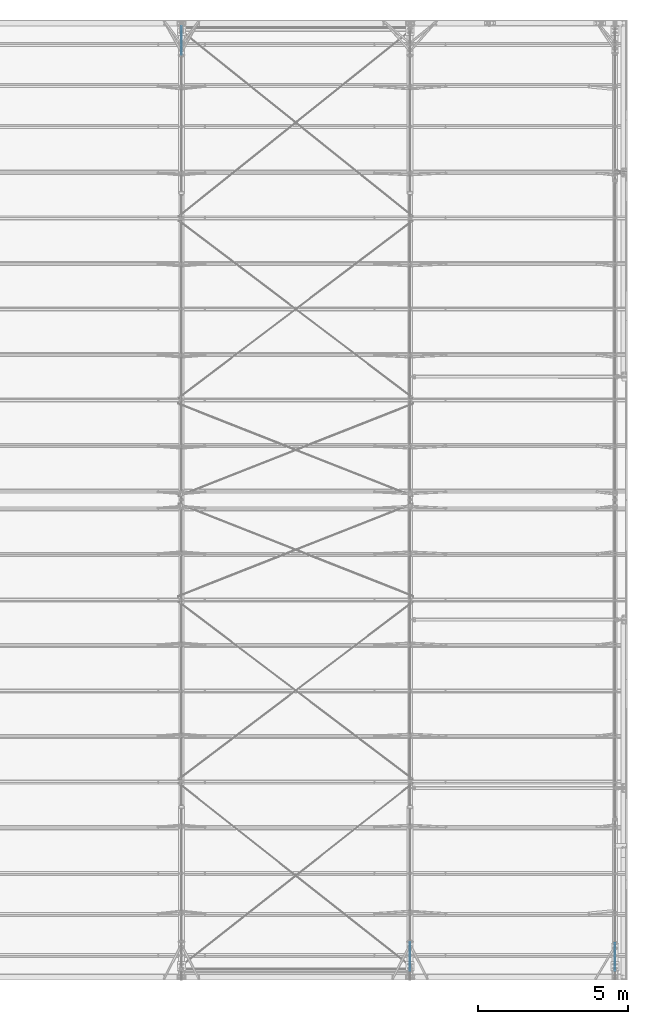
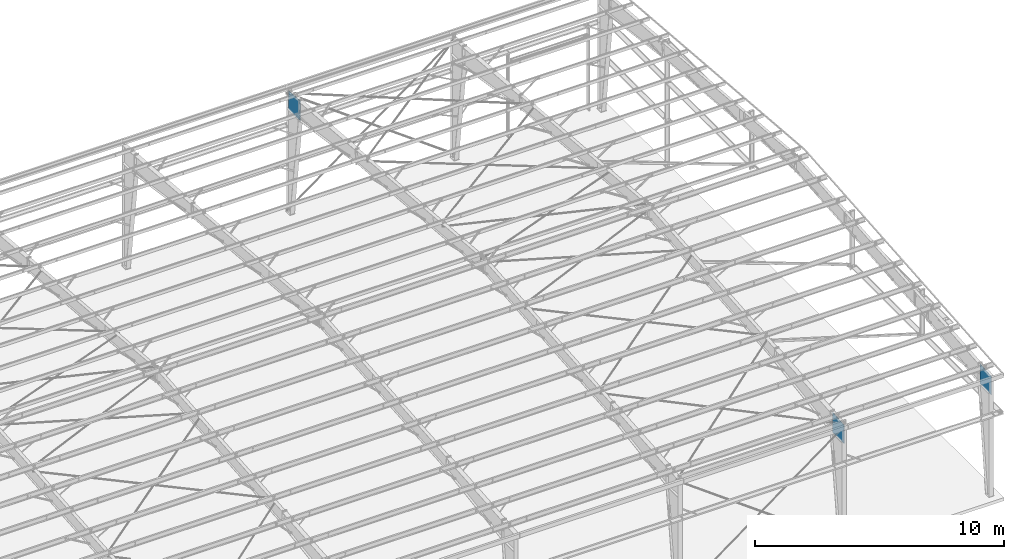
# One storey, part 3 of 185: 3 columns, 3 elements without a shape of their own.
"""IFC2X3 building model written with IfcOpenShell, lengths in millimetres."""

from ifc_helpers import new_model, si_unit, frame, origin_with_axes, origin_2d_with_axis, place, context, subcontext, project, spatial, rectangle, extrude, clip, halfspace, material, type_object, element, aggregate, save


model = new_model("IFC2X3")

# Units and contexts
model_context = context("Model", 3, precision=1e-05, world=origin_with_axes())
body_context = subcontext(model_context, "Body", "Model", "MODEL_VIEW")
ifc_project = project(units=[si_unit("LENGTHUNIT", "METRE", prefix="MILLI"), si_unit("AREAUNIT", "SQUARE_METRE"), si_unit("VOLUMEUNIT", "CUBIC_METRE"), si_unit("MASSUNIT", "GRAM", prefix="KILO"), si_unit("TIMEUNIT", "SECOND"), si_unit("PLANEANGLEUNIT", "RADIAN"), si_unit("SOLIDANGLEUNIT", "STERADIAN"), si_unit("THERMODYNAMICTEMPERATUREUNIT", "DEGREE_CELSIUS"), si_unit("LUMINOUSINTENSITYUNIT", "LUMEN")], contexts=[model_context])

# Site, building, storey
site_placement = place(None, origin_with_axes())
site = spatial("IfcSite", under=ifc_project, at=site_placement, Name="Undefined", CompositionType="ELEMENT")
building_placement = place(site_placement, origin_with_axes())
building = spatial("IfcBuilding", under=site, at=building_placement, Name="Undefined", CompositionType="ELEMENT")
storey_placement = place(building_placement, origin_with_axes())
storey = spatial("IfcBuildingStorey", under=building, at=storey_placement, Name="Undefined", CompositionType="ELEMENT", Elevation=0.0)

# Assembly, column
assembly_1_placement = place(storey_placement, origin_with_axes())
assembly_1 = element("IfcElementAssembly", 1, at=assembly_1_placement, inside=storey, Name="Steel Assembly", AssemblyPlace="NOTDEFINED", PredefinedType="RIGID_FRAME")
ifc_material = material(Name="STEEL/55")
column_type_1 = type_object("IfcColumnType", Name="PL1/4\"X35\"", PredefinedType="NOTDEFINED")
column_1_placement = place(assembly_1_placement, frame((44551.6, 755.650000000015, 4994.54898109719), z_axis=(0.0, 0.0, 1.0), x_axis=(0.0, -1.0, 0.0)))
column_1 = element("IfcColumn", 2, at=column_1_placement, type_object=column_type_1, material=ifc_material, Name="Web", ObjectType="PL1/4\"X35\"", context=body_context, shape_type="Clipping", body=[
    clip(extrude(rectangle(XDim=6.35, YDim=889.0, at=origin_2d_with_axis()), frame((0.0, 0.0, 991.557590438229), z_axis=(0.0, 0.0, -1.0), x_axis=(0.0, 1.0, 0.0)), (0.0, 0.0, 1.0), 991.6), halfspace(frame((755.122661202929, 0.0, 891.218618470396), z_axis=(-0.0830454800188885, 0.0, -0.996545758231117), x_axis=(0.0, 1.0, 0.0)), True)),
])
aggregate(assembly_1, [column_1])

assembly_2_placement = place(storey_placement, origin_with_axes())
assembly_2 = element("IfcElementAssembly", 3, at=assembly_2_placement, inside=storey, Name="Steel Assembly", AssemblyPlace="NOTDEFINED", PredefinedType="RIGID_FRAME")
column_type_2 = type_object("IfcColumnType", Name="PL5/16\"X37\"", PredefinedType="NOTDEFINED")
column_2_placement = place(assembly_2_placement, frame((37719.0, 782.574, 4992.99615112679), z_axis=(0.0, 0.0, 1.0), x_axis=(0.0, -1.0, 0.0)))
column_2 = element("IfcColumn", 4, at=column_2_placement, type_object=column_type_2, material=ifc_material, Name="Web", ObjectType="PL5/16\"X37\"", context=body_context, shape_type="Clipping", body=[
    clip(extrude(rectangle(XDim=7.9375, YDim=939.8, at=origin_2d_with_axis()), frame((0.0, 0.0, 995.886173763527), z_axis=(0.0, 0.0, -1.0), x_axis=(0.0, 1.0, 0.0)), (0.0, 0.0, 1.0), 995.9), halfspace(frame((781.913771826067, 0.0, 891.176775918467), z_axis=(-0.0830454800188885, 0.0, -0.996545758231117), x_axis=(0.0, 1.0, 0.0)), True)),
])
aggregate(assembly_2, [column_2])

assembly_3_placement = place(storey_placement, origin_with_axes())
assembly_3 = element("IfcElementAssembly", 5, at=assembly_3_placement, inside=storey, Name="Steel Assembly", AssemblyPlace="NOTDEFINED", PredefinedType="RIGID_FRAME")
column_3_placement = place(assembly_3_placement, frame((30099.0, 31323.026, 4984.52948446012), z_axis=(0.0, 0.0, 1.0), x_axis=(0.0, 1.0, 0.0)))
column_3 = element("IfcColumn", 6, at=column_3_placement, type_object=column_type_2, material=ifc_material, Name="Web", ObjectType="PL5/16\"X37\"", context=body_context, shape_type="Clipping", body=[
    clip(extrude(rectangle(XDim=7.9375, YDim=939.8, at=origin_2d_with_axis()), frame((0.0, 0.0, 995.886173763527), z_axis=(0.0, 0.0, -1.0), x_axis=(0.0, 1.0, 0.0)), (0.0, 0.0, 1.0), 995.9), halfspace(frame((680.31377182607, 0.0, 899.643442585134), z_axis=(-0.0830454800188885, 0.0, -0.996545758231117), x_axis=(0.0, 1.0, 0.0)), True)),
])
aggregate(assembly_3, [column_3])

save(model, "model.ifc")
